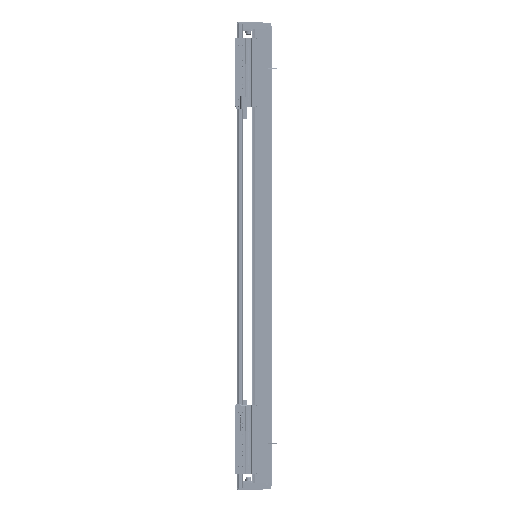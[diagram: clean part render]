
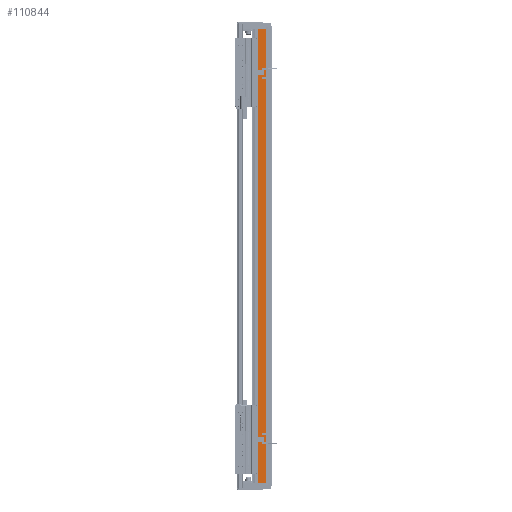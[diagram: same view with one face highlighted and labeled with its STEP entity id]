
A CAD part, left-side view. The second image highlights one B-rep face of the part: STEP entity #110844.
In plain terms, the highlighted planar face has unit normal (-1, 0, 0).
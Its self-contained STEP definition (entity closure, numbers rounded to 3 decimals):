
#2960 = CARTESIAN_POINT ( 'NONE',  ( -97.5, 36.95, -630. ) ) ;
#7593 = CARTESIAN_POINT ( 'NONE',  ( -97.5, 14.45, -630. ) ) ;
#13696 = DIRECTION ( 'NONE',  ( 0., 1., 0. ) ) ;
#15328 = ORIENTED_EDGE ( 'NONE', *, *, #91722, .F. ) ;
#15675 = EDGE_CURVE ( 'NONE', #26103, #43309, #29428, .T. ) ;
#21538 = VECTOR ( 'NONE', #101470, 1000. ) ;
#25772 = DIRECTION ( 'NONE',  ( 1., 0., 0. ) ) ;
#26103 = VERTEX_POINT ( 'NONE', #128599 ) ;
#27887 = VECTOR ( 'NONE', #103592, 1000. ) ;
#29428 = LINE ( 'NONE', #114025, #60656 ) ;
#35601 = EDGE_CURVE ( 'NONE', #26103, #66145, #53252, .T. ) ;
#36308 = EDGE_CURVE ( 'NONE', #43309, #129531, #101222, .T. ) ;
#38659 = PLANE ( 'NONE',  #59432 ) ;
#43309 = VERTEX_POINT ( 'NONE', #56278 ) ;
#53252 = LINE ( 'NONE', #151451, #153696 ) ;
#56278 = CARTESIAN_POINT ( 'NONE',  ( -97.5, 36.95, -630. ) ) ;
#59432 = AXIS2_PLACEMENT_3D ( 'NONE', #149699, #25772, #13696 ) ;
#59643 = ORIENTED_EDGE ( 'NONE', *, *, #36308, .T. ) ;
#60656 = VECTOR ( 'NONE', #77757, 1000. ) ;
#61601 = ORIENTED_EDGE ( 'NONE', *, *, #15675, .T. ) ;
#63757 = EDGE_LOOP ( 'NONE', ( #59643, #15328, #79464, #61601 ) ) ;
#66145 = VERTEX_POINT ( 'NONE', #96700 ) ;
#77757 = DIRECTION ( 'NONE',  ( 0., 0., -1. ) ) ;
#79464 = ORIENTED_EDGE ( 'NONE', *, *, #35601, .F. ) ;
#91722 = EDGE_CURVE ( 'NONE', #66145, #129531, #138485, .T. ) ;
#96700 = CARTESIAN_POINT ( 'NONE',  ( -97.5, 14.45, 630. ) ) ;
#101222 = LINE ( 'NONE', #2960, #27887 ) ;
#101470 = DIRECTION ( 'NONE',  ( 0., 0., -1. ) ) ;
#103592 = DIRECTION ( 'NONE',  ( 0., -1., 0. ) ) ;
#110844 = ADVANCED_FACE ( 'NONE', ( #111141 ), #38659, .F. ) ;
#111141 = FACE_OUTER_BOUND ( 'NONE', #63757, .T. ) ;
#114025 = CARTESIAN_POINT ( 'NONE',  ( -97.5, 36.95, 630. ) ) ;
#128599 = CARTESIAN_POINT ( 'NONE',  ( -97.5, 36.95, 630. ) ) ;
#129531 = VERTEX_POINT ( 'NONE', #7593 ) ;
#138485 = LINE ( 'NONE', #149740, #21538 ) ;
#140185 = DIRECTION ( 'NONE',  ( 0., -1., 0. ) ) ;
#149699 = CARTESIAN_POINT ( 'NONE',  ( -97.5, 36.95, 630. ) ) ;
#149740 = CARTESIAN_POINT ( 'NONE',  ( -97.5, 14.45, 630. ) ) ;
#151451 = CARTESIAN_POINT ( 'NONE',  ( -97.5, 36.95, 630. ) ) ;
#153696 = VECTOR ( 'NONE', #140185, 1000. ) ;
